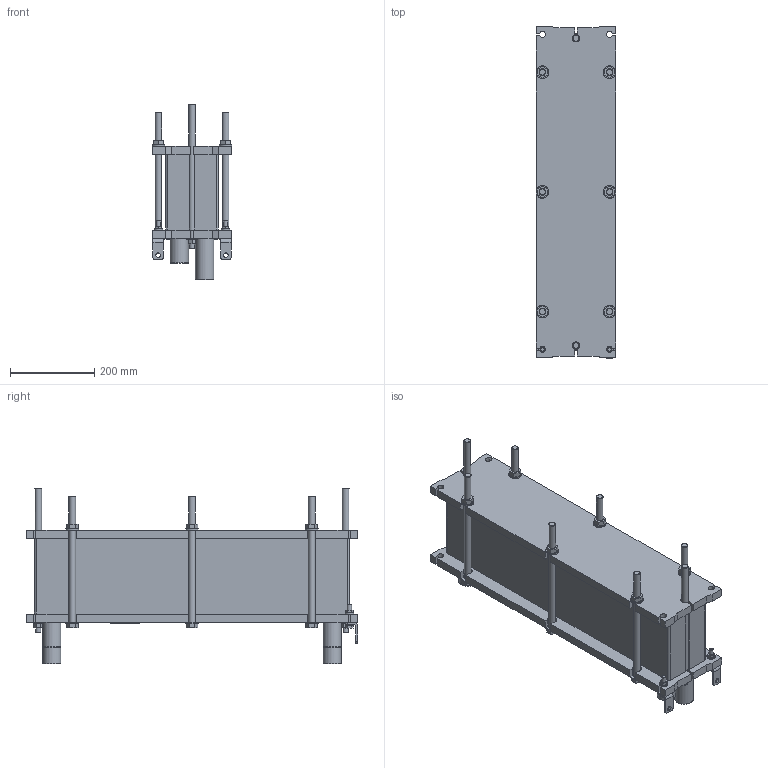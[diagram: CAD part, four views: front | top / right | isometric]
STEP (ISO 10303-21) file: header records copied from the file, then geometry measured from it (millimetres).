
FILE_DESCRIPTION((''),'2;1');
FILE_NAME('C:\temp\TL3_FG_LC300_01_Rev0.stp','2009-09-07T16:00:25',('CNSHFLU'),(''),'Autodesk Inventor 2008','Autodesk Inventor 2008','');
FILE_SCHEMA(('AUTOMOTIVE_DESIGN { 1 2 10303 214 0 1 1 1 }'));
Length unit declared in the file: millimetre
Products named in the file (1): TL3
Bounding box: 190 x 790 x 419 mm (x, y, z)
Volume: 22675626.2 mm3; surface area: 1112711.8 mm2
Topology: 1 solids, 1 shells, 793 faces, 2161 edges, 1424 vertices
Faces by surface type: plane 559, cylinder 220, cone 14
Full cylindrical faces by diameter (mm): 2.646 x4, 10 x4, 11 x4, 12 x2, 16 x14, 20 x4, 24 x2, 30 x16, 40 x4, 44 x4
Entity records: 24479 total; most frequent: CARTESIAN_POINT 4243, DIRECTION 4127, ORIENTED_EDGE 4114, EDGE_CURVE 2057, VECTOR 1575, LINE 1575, VERTEX_POINT 1392, AXIS2_PLACEMENT_3D 1276
